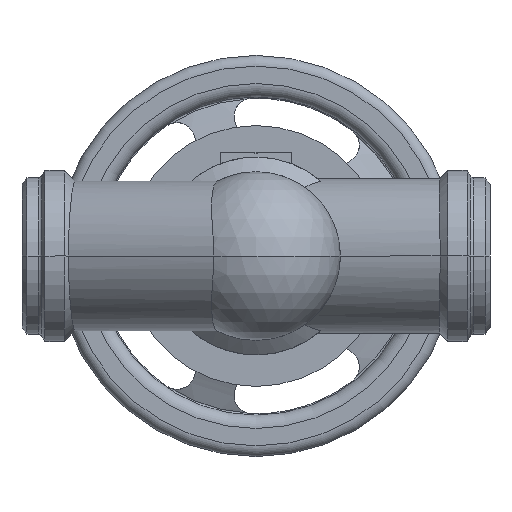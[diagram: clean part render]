
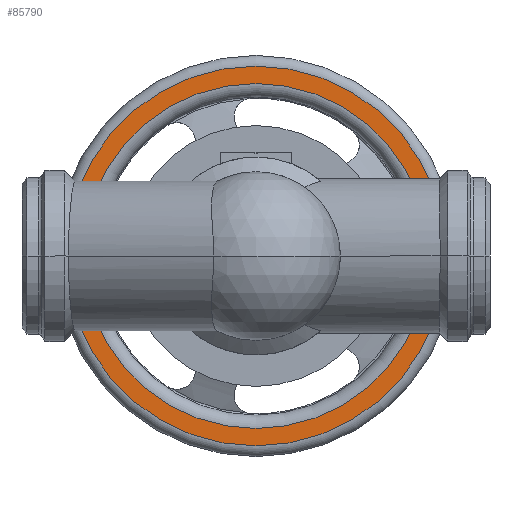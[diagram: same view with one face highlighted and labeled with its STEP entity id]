
A CAD part, front view. The second image highlights one B-rep face of the part: STEP entity #85790.
In plain terms, the highlighted planar face has unit normal (0, -1, 0).
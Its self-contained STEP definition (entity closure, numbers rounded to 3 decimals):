
#85170=CARTESIAN_POINT('',(317.,403.3,0.));
#85180=VERTEX_POINT('',#85170);
#85280=CARTESIAN_POINT('',(33.,403.3,0.));
#85290=VERTEX_POINT('',#85280);
#85320=CARTESIAN_POINT('',(175.,403.3,0.));
#85330=DIRECTION('',(0.,1.,0.));
#85340=DIRECTION('',(-1.,0.,0.));
#85350=AXIS2_PLACEMENT_3D('',#85320,#85330,#85340);
#85360=CIRCLE('',#85350,142.);
#85370=CARTESIAN_POINT('',(175.,403.3,-142.));
#85380=VERTEX_POINT('',#85370);
#85390=EDGE_CURVE('',#85380,#85290,#85360,.T.);
#85410=EDGE_CURVE('',#85180,#85380,#85360,.T.);
#85530=CARTESIAN_POINT('',(39.5,403.3,0.))
;
#85540=DIRECTION('',(0.,-1.,0.));
#85550=DIRECTION('',(1.,0.,0.));
#85560=AXIS2_PLACEMENT_3D('',#85530,#85540,#85550);
#85570=PLANE('',#85560);
#85580=ORIENTED_EDGE('',*,*,#85390,.F.);
#85590=EDGE_CURVE('',#85290,#85180,#85360,.T.);
#85600=ORIENTED_EDGE('',*,*,#85590,.F.);
#85610=ORIENTED_EDGE('',*,*,#85410,.F.);
#85620=EDGE_LOOP('',(#85610,#85600,#85580));
#85630=FACE_OUTER_BOUND('',#85620,.T.);
#85640=CARTESIAN_POINT('',(175.,403.3,0.));
#85650=DIRECTION('',(0.,1.,0.));
#85660=DIRECTION('',(-1.,0.,0.));
#85670=AXIS2_PLACEMENT_3D('',#85640,#85650,#85660);
#85680=CIRCLE('',#85670,129.);
#85690=CARTESIAN_POINT('',(46.,403.3,0.));
#85700=VERTEX_POINT('',#85690);
#85710=CARTESIAN_POINT('',(304.,403.3,0.));
#85720=VERTEX_POINT('',#85710);
#85730=EDGE_CURVE('',#85700,#85720,#85680,.T.);
#85740=ORIENTED_EDGE('',*,*,#85730,.T.);
#85750=EDGE_CURVE('',#85720,#85700,#85680,.T.);
#85760=ORIENTED_EDGE('',*,*,#85750,.T.);
#85770=EDGE_LOOP('',(#85760,#85740));
#85780=FACE_BOUND('',#85770,.T.);
#85790=ADVANCED_FACE('',(#85630,#85780),#85570,.T.);
